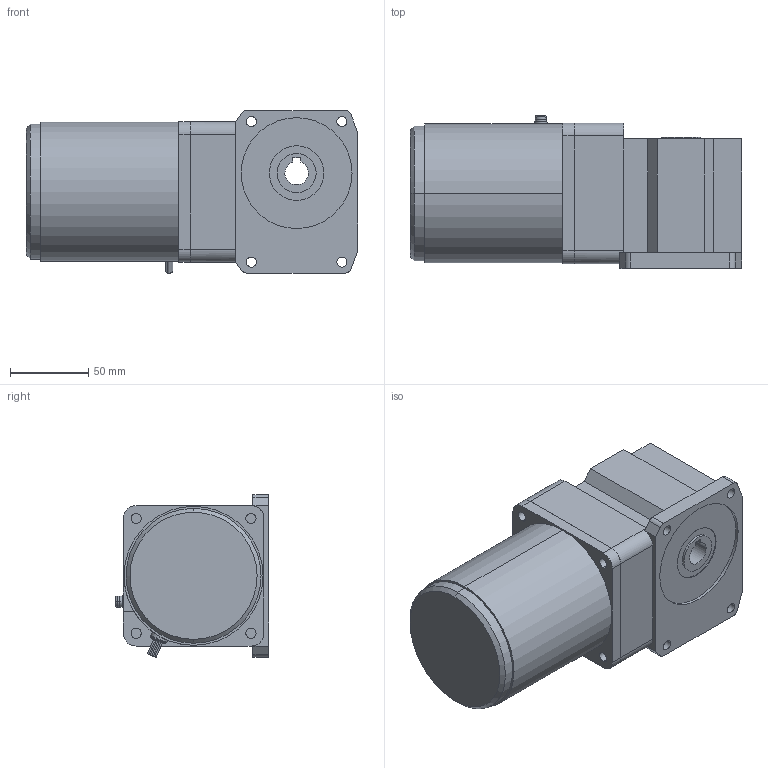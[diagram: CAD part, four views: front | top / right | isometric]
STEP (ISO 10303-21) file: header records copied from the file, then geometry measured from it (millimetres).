
FILE_DESCRIPTION(('starvars output'),'2;1');
FILE_NAME('5IK40GN-AW2U _ 5GN100RH.stp','10:38:48 2015/05/11',( 'Thomas Industrial Network Germany GmbH'),( 'Thomas Industrial Network Germany GmbH'),'unknown preprocess','ACIS' ,'unknown authorization');
FILE_SCHEMA(('AUTOMOTIVE_DESIGN_CC2 {UNKNOWN IMPLEMENTATION LEVEL}'));
Length unit declared in the file: millimetre
Products named in the file (1): PRODUCT_ID_806
Bounding box: 212 x 98 x 104.23 mm (x, y, z)
Volume: 1393083.8 mm3; surface area: 91604.4 mm2
Topology: 1 solids, 1 shells, 148 faces, 363 edges, 239 vertices
Faces by surface type: cylinder 72, plane 68, torus 6, cone 2
Entity records: 5275 total; most frequent: ORIENTED_EDGE 726, CARTESIAN_POINT 719, DIRECTION 622, EDGE_CURVE 363, VERTEX_POINT 239, AXIS2_PLACEMENT_3D 212, VECTOR 198, LINE 198
